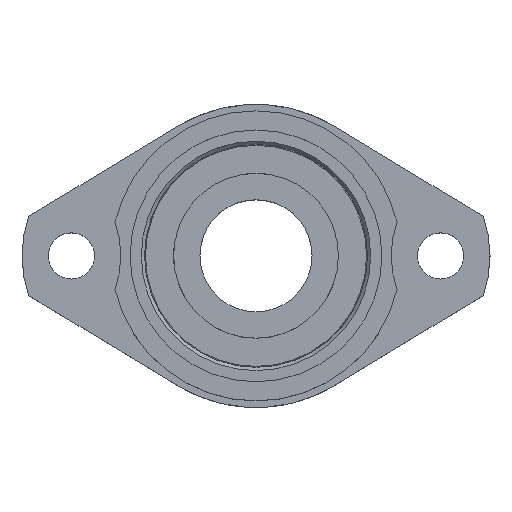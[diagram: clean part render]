
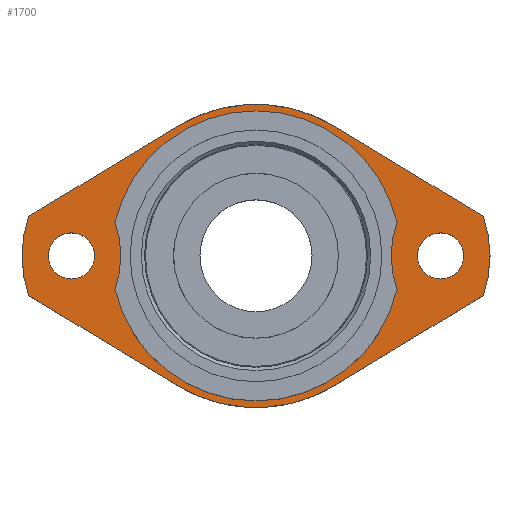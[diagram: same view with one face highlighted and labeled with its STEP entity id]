
A CAD part, top view. The second image highlights one B-rep face of the part: STEP entity #1700.
In plain terms, the highlighted planar face has unit normal (0, 0, 1).
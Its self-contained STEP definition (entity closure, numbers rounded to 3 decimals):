
#672=CARTESIAN_POINT('',(24.5,0.,0.));
#673=VERTEX_POINT('',#672);
#674=CARTESIAN_POINT('',(28.,0.,0.0));
#675=DIRECTION('',(0.0,0.0,-1.0));
#676=DIRECTION('',(1.0,0.0,0.0));
#677=AXIS2_PLACEMENT_3D('',#674,#675,#676);
#678=CIRCLE('',#677,3.5);
#679=EDGE_CURVE('',#673,#673,#678,.T.);
#692=CARTESIAN_POINT('',(-31.5,0.,0.));
#693=VERTEX_POINT('',#692);
#694=CARTESIAN_POINT('',(-28.,0.0,0.0));
#695=DIRECTION('',(0.0,0.0,-1.0));
#696=DIRECTION('',(1.0,0.0,0.0));
#697=AXIS2_PLACEMENT_3D('',#694,#695,#696);
#698=CIRCLE('',#697,3.5);
#699=EDGE_CURVE('',#693,#693,#698,.T.);
#1338=CARTESIAN_POINT('',(-21.398,-5.112,0.0));
#1339=VERTEX_POINT('',#1338);
#1346=CARTESIAN_POINT('',(21.398,-5.112,0.0));
#1347=VERTEX_POINT('',#1346);
#1348=CARTESIAN_POINT('',(0.0,0.0,0.0));
#1349=DIRECTION('',(0.0,0.0,-1.0));
#1350=DIRECTION('',(0.973,0.232,0.0));
#1351=AXIS2_PLACEMENT_3D('',#1348,#1349,#1350);
#1352=CIRCLE('',#1351,22.0);
#1353=EDGE_CURVE('',#1347,#1339,#1352,.T.);
#1378=CARTESIAN_POINT('',(-21.398,5.112,0.0));
#1379=VERTEX_POINT('',#1378);
#1386=CARTESIAN_POINT('',(-35.5,0.0,0.0));
#1387=DIRECTION('',(0.0,0.0,1.0));
#1388=DIRECTION('',(0.94,-0.341,0.0));
#1389=AXIS2_PLACEMENT_3D('',#1386,#1387,#1388);
#1390=CIRCLE('',#1389,15.);
#1391=EDGE_CURVE('',#1339,#1379,#1390,.T.);
#1411=CARTESIAN_POINT('',(21.398,5.112,0.0));
#1412=VERTEX_POINT('',#1411);
#1419=CARTESIAN_POINT('',(0.0,0.0,0.0));
#1420=DIRECTION('',(0.0,0.0,-1.0));
#1421=DIRECTION('',(-0.973,-0.232,0.0));
#1422=AXIS2_PLACEMENT_3D('',#1419,#1420,#1421);
#1423=CIRCLE('',#1422,22.0);
#1424=EDGE_CURVE('',#1379,#1412,#1423,.T.);
#1443=CARTESIAN_POINT('',(35.5,0.,0.0));
#1444=DIRECTION('',(0.0,0.0,1.0));
#1445=DIRECTION('',(-0.94,0.341,0.0));
#1446=AXIS2_PLACEMENT_3D('',#1443,#1444,#1445);
#1447=CIRCLE('',#1446,15.);
#1448=EDGE_CURVE('',#1412,#1347,#1447,.T.);
#1474=CARTESIAN_POINT('',(34.471,-6.,0.0));
#1475=VERTEX_POINT('',#1474);
#1476=CARTESIAN_POINT('',(11.923,-19.668,0.0));
#1477=VERTEX_POINT('',#1476);
#1478=CARTESIAN_POINT('',(34.471,-6.,0.0));
#1479=DIRECTION('',(-0.855,-0.518,0.0));
#1480=VECTOR('',#1479,26.367);
#1481=LINE('',#1478,#1480);
#1482=EDGE_CURVE('',#1475,#1477,#1481,.T.);
#1508=CARTESIAN_POINT('',(-11.923,-19.668,0.0));
#1509=VERTEX_POINT('',#1508);
#1510=CARTESIAN_POINT('',(0.0,0.0,0.0));
#1511=DIRECTION('',(0.0,0.0,-1.0));
#1512=DIRECTION('',(0.518,0.855,0.0));
#1513=AXIS2_PLACEMENT_3D('',#1510,#1511,#1512);
#1514=CIRCLE('',#1513,23.0);
#1515=EDGE_CURVE('',#1477,#1509,#1514,.T.);
#1534=CARTESIAN_POINT('',(-34.471,-6.,0.0));
#1535=VERTEX_POINT('',#1534);
#1536=CARTESIAN_POINT('',(-11.923,-19.668,0.0));
#1537=DIRECTION('',(-0.855,0.518,0.0));
#1538=VECTOR('',#1537,26.367);
#1539=LINE('',#1536,#1538);
#1540=EDGE_CURVE('',#1509,#1535,#1539,.T.);
#1558=CARTESIAN_POINT('',(-34.471,6.,0.0));
#1559=VERTEX_POINT('',#1558);
#1560=CARTESIAN_POINT('',(-17.5,0.0,0.0));
#1561=DIRECTION('',(0.0,0.0,-1.0));
#1562=DIRECTION('',(0.943,-0.333,0.0));
#1563=AXIS2_PLACEMENT_3D('',#1560,#1561,#1562);
#1564=CIRCLE('',#1563,18.);
#1565=EDGE_CURVE('',#1535,#1559,#1564,.T.);
#1583=CARTESIAN_POINT('',(-11.923,19.668,0.0));
#1584=VERTEX_POINT('',#1583);
#1585=CARTESIAN_POINT('',(-34.471,6.,0.0));
#1586=DIRECTION('',(0.855,0.518,0.0));
#1587=VECTOR('',#1586,26.367);
#1588=LINE('',#1585,#1587);
#1589=EDGE_CURVE('',#1559,#1584,#1588,.T.);
#1610=CARTESIAN_POINT('',(11.923,19.668,0.0));
#1611=VERTEX_POINT('',#1610);
#1612=CARTESIAN_POINT('',(0.0,0.0,0.0));
#1613=DIRECTION('',(0.0,0.0,-1.0));
#1614=DIRECTION('',(-0.518,-0.855,0.0));
#1615=AXIS2_PLACEMENT_3D('',#1612,#1613,#1614);
#1616=CIRCLE('',#1615,23.0);
#1617=EDGE_CURVE('',#1584,#1611,#1616,.T.);
#1636=CARTESIAN_POINT('',(34.471,6.,0.0));
#1637=VERTEX_POINT('',#1636);
#1638=CARTESIAN_POINT('',(11.923,19.668,0.0));
#1639=DIRECTION('',(0.855,-0.518,0.0));
#1640=VECTOR('',#1639,26.367);
#1641=LINE('',#1638,#1640);
#1642=EDGE_CURVE('',#1611,#1637,#1641,.T.);
#1660=CARTESIAN_POINT('',(17.5,0.0,0.0));
#1661=DIRECTION('',(0.0,0.0,-1.0));
#1662=DIRECTION('',(-0.943,0.333,0.0));
#1663=AXIS2_PLACEMENT_3D('',#1660,#1661,#1662);
#1664=CIRCLE('',#1663,18.);
#1665=EDGE_CURVE('',#1637,#1475,#1664,.T.);
#1673=CARTESIAN_POINT('',(0.,0.,0.0));
#1674=DIRECTION('',(0.0,0.0,1.0));
#1675=DIRECTION('',(1.0,0.0,0.0));
#1676=AXIS2_PLACEMENT_3D('',#1673,#1674,#1675);
#1677=PLANE('',#1676);
#1678=ORIENTED_EDGE('',*,*,#1482,.F.);
#1679=ORIENTED_EDGE('',*,*,#1665,.F.);
#1680=ORIENTED_EDGE('',*,*,#1642,.F.);
#1681=ORIENTED_EDGE('',*,*,#1617,.F.);
#1682=ORIENTED_EDGE('',*,*,#1589,.F.);
#1683=ORIENTED_EDGE('',*,*,#1565,.F.);
#1684=ORIENTED_EDGE('',*,*,#1540,.F.);
#1685=ORIENTED_EDGE('',*,*,#1515,.F.);
#1686=EDGE_LOOP('',(#1678,#1679,#1680,#1681,#1682,#1683,#1684,#1685));
#1687=FACE_OUTER_BOUND('',#1686,.T.);
#1688=ORIENTED_EDGE('',*,*,#679,.T.);
#1689=EDGE_LOOP('',(#1688));
#1690=FACE_BOUND('',#1689,.T.);
#1691=ORIENTED_EDGE('',*,*,#699,.T.);
#1692=EDGE_LOOP('',(#1691));
#1693=FACE_BOUND('',#1692,.T.);
#1694=ORIENTED_EDGE('',*,*,#1353,.T.);
#1695=ORIENTED_EDGE('',*,*,#1391,.T.);
#1696=ORIENTED_EDGE('',*,*,#1424,.T.);
#1697=ORIENTED_EDGE('',*,*,#1448,.T.);
#1698=EDGE_LOOP('',(#1694,#1695,#1696,#1697));
#1699=FACE_BOUND('',#1698,.T.);
#1700=ADVANCED_FACE('',(#1687,#1690,#1693,#1699),#1677,.T.);
